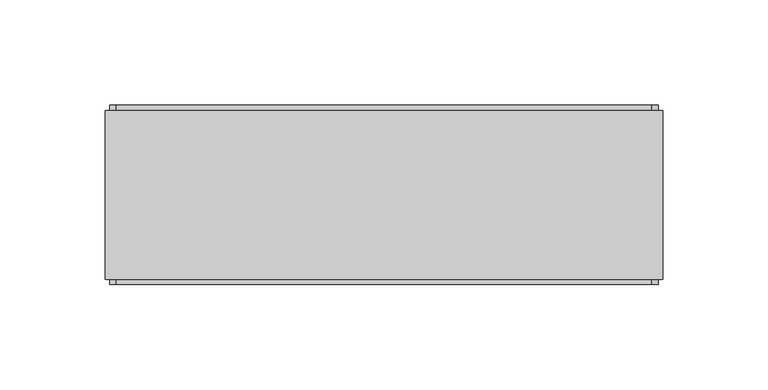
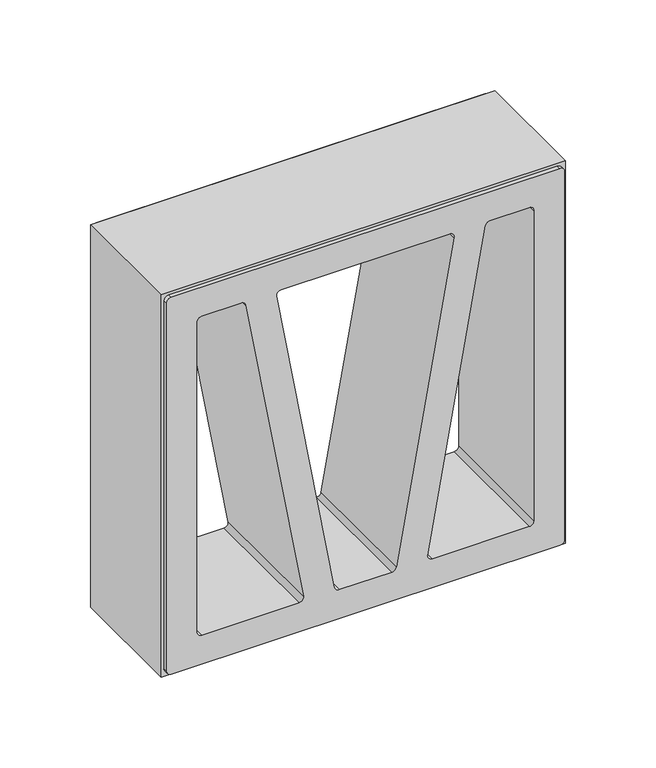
"""IFC4 building model written with IfcOpenShell, lengths in millimetres: proxy geometry, PORTOBELLO - STUDIO CRAFT 3 26X26 (COBOGO) : STUDIO CRAFT 3."""

from ifc_helpers import new_model, si_unit, point, frame, frame_2d, origin, place, context, project, spatial, polyline, circle_curve, trimmed, segment, composite_curve, outline, extrude, source, transform, mapped, element, save


def generic_models_d5a960b2(model_context):
    return source(origin(), model_context, "Body", "SweptSolid", [
        extrude(outline(composite_curve([segment(polyline([(5.0, 130.0), (259.0, 130.0)]), True, "CONTINUOUS"), segment(trimmed(circle_curve(frame_2d((259.0, 127.0)), 3.0), [point((259.0, 130.0))], [point((262.0, 127.0))], False, "CARTESIAN"), True, "CONTINUOUS"), segment(polyline([(262.0, 127.0), (262.0, -127.0)]), True, "CONTINUOUS"), segment(trimmed(circle_curve(frame_2d((259.0, -127.0)), 3.0), [point((262.0, -127.0))], [point((259.0, -130.0))], False, "CARTESIAN"), True, "CONTINUOUS"), segment(polyline([(259.0, -130.0), (5.0, -130.0)]), True, "CONTINUOUS"), segment(trimmed(circle_curve(frame_2d((5.0, -127.0)), 3.0), [point((5.0, -130.0))], [point((2.0, -127.0))], False, "CARTESIAN"), True, "CONTINUOUS"), segment(polyline([(2.0, -127.0), (2.0, 127.0)]), True, "CONTINUOUS"), segment(trimmed(circle_curve(frame_2d((5.0, 127.0)), 3.0), [point((2.0, 127.0))], [point((5.0, 130.0))], False, "CARTESIAN"), True, "CONTINUOUS")], self_intersect=False), holes=[composite_curve([segment(polyline([(242.0, 81.3092346), (242.0, 107.0)]), True, "CONTINUOUS"), segment(trimmed(circle_curve(frame_2d((239.0, 107.0)), 3.0), [point((242.0, 107.0))], [point((239.0, 110.0))], True, "CARTESIAN"), True, "CONTINUOUS"), segment(polyline([(239.0, 110.0), (25.0, 110.0)]), True, "CONTINUOUS"), segment(trimmed(circle_curve(frame_2d((25.0, 107.0)), 3.0), [point((25.0, 110.0))], [point((22.0, 107.0))], True, "CARTESIAN"), True, "CONTINUOUS"), segment(polyline([(22.0, 107.0), (22.0, 43.5752608)]), True, "CONTINUOUS"), segment(trimmed(circle_curve(frame_2d((25.0, 43.5752608)), 3.0), [point((22.0, 43.5752608))], [point((25.5209445, 40.6208375))], True, "CARTESIAN"), True, "CONTINUOUS"), segment(polyline([(25.5209445, 40.6208375), (239.5209445, 78.3548114)]), True, "CONTINUOUS"), segment(trimmed(circle_curve(frame_2d((239.0, 81.3092346)), 3.0), [point((239.5209445, 78.3548114))], [point((242.0, 81.3092346))], True, "CARTESIAN"), True, "CONTINUOUS")], self_intersect=False), composite_curve([segment(polyline([(22.0, -43.5752608), (22.0, -107.0)]), True, "CONTINUOUS"), segment(trimmed(circle_curve(frame_2d((25.0, -107.0)), 3.0), [point((22.0, -107.0))], [point((25.0, -110.0))], True, "CARTESIAN"), True, "CONTINUOUS"), segment(polyline([(25.0, -110.0), (239.0, -110.0)]), True, "CONTINUOUS"), segment(trimmed(circle_curve(frame_2d((239.0, -107.0)), 3.0), [point((239.0, -110.0))], [point((242.0, -107.0))], True, "CARTESIAN"), True, "CONTINUOUS"), segment(polyline([(242.0, -107.0), (242.0, -81.3092346)]), True, "CONTINUOUS"), segment(trimmed(circle_curve(frame_2d((239.0, -81.3092346)), 3.0), [point((242.0, -81.3092346))], [point((239.5209445, -78.3548114))], True, "CARTESIAN"), True, "CONTINUOUS"), segment(polyline([(239.5209445, -78.3548114), (25.5209445, -40.6208375)]), True, "CONTINUOUS"), segment(trimmed(circle_curve(frame_2d((25.0, -43.5752608)), 3.0), [point((25.5209445, -40.6208375))], [point((22.0, -43.5752608))], True, "CARTESIAN"), True, "CONTINUOUS")], self_intersect=False), composite_curve([segment(trimmed(circle_curve(frame_2d((239.0, -54.9081427)), 3.0), [point((238.4790555, -57.862566))], [point((242.0, -54.9081427))], True, "CARTESIAN"), True, "CONTINUOUS"), segment(polyline([(242.0, -54.9081427), (242.0, 54.9081427)]), True, "CONTINUOUS"), segment(trimmed(circle_curve(frame_2d((239.0, 54.9081427)), 3.0), [point((242.0, 54.9081427))], [point((238.4790555, 57.862566))], True, "CARTESIAN"), True, "CONTINUOUS"), segment(polyline([(238.4790555, 57.862566), (24.4790555, 20.1285921)]), True, "CONTINUOUS"), segment(trimmed(circle_curve(frame_2d((25.0, 17.1741689)), 3.0), [point((24.4790555, 20.1285921))], [point((22.0, 17.1741689))], True, "CARTESIAN"), True, "CONTINUOUS"), segment(polyline([(22.0, 17.1741689), (22.0, -17.1741689)]), True, "CONTINUOUS"), segment(trimmed(circle_curve(frame_2d((25.0, -17.1741689)), 3.0), [point((22.0, -17.1741689))], [point((24.4790555, -20.1285921))], True, "CARTESIAN"), True, "CONTINUOUS"), segment(polyline([(24.4790555, -20.1285921), (238.4790555, -57.862566)]), True, "CONTINUOUS")], self_intersect=False)]), frame((0.0, -42.5, 0.0), z_axis=(0.0, 1.0, 0.0), x_axis=(0.0, 0.0, 1.0)), (0.0, 0.0, 1.0), 85.0),
        extrude(outline(polyline([(264.0, -132.0), (0.0, -132.0), (0.0, 132.0), (264.0, 132.0), (264.0, -132.0)]), holes=[composite_curve([segment(trimmed(circle_curve(frame_2d((5.0, -127.0)), 3.0), [point((2.0, -127.0))], [point((5.0, -130.0))], True, "CARTESIAN"), True, "CONTINUOUS"), segment(polyline([(5.0, -130.0), (259.0, -130.0)]), True, "CONTINUOUS"), segment(trimmed(circle_curve(frame_2d((259.0, -127.0)), 3.0), [point((259.0, -130.0))], [point((262.0, -127.0))], True, "CARTESIAN"), True, "CONTINUOUS"), segment(polyline([(262.0, -127.0), (262.0, 127.0)]), True, "CONTINUOUS"), segment(trimmed(circle_curve(frame_2d((259.0, 127.0)), 3.0), [point((262.0, 127.0))], [point((259.0, 130.0))], True, "CARTESIAN"), True, "CONTINUOUS"), segment(polyline([(259.0, 130.0), (5.0, 130.0)]), True, "CONTINUOUS"), segment(trimmed(circle_curve(frame_2d((5.0, 127.0)), 3.0), [point((5.0, 130.0))], [point((2.0, 127.0))], True, "CARTESIAN"), True, "CONTINUOUS"), segment(polyline([(2.0, 127.0), (2.0, -127.0)]), True, "CONTINUOUS")], self_intersect=False)]), frame((0.0, -40.0, 0.0), z_axis=(0.0, 1.0, 0.0), x_axis=(0.0, 0.0, 1.0)), (0.0, 0.0, 1.0), 80.0),
    ])


if __name__ == "__main__":
    model = new_model("IFC4")
    model_context = context("Model", 3, world=origin())
    ifc_project = project(units=[si_unit("LENGTHUNIT", "METRE", prefix="MILLI")], contexts=[model_context])
    site = spatial("IfcSite", under=ifc_project)
    building = spatial("IfcBuilding", under=site)
    placement = place(None, origin())
    generic_models_shape = generic_models_d5a960b2(model_context)
    element("IfcBuildingElementProxy", 1, Name="PORTOBELLO - STUDIO CRAFT 3 26X26 (COBOGO) : STUDIO CRAFT 3", ObjectType="PORTOBELLO - STUDIO CRAFT 3 26X26 (COBOGO) : STUDIO CRAFT 3", at=placement, inside=building, context=model_context, shape_type="MappedRepresentation", body=[
        mapped(generic_models_shape, transform((0.0, 0.0, 0.0), x_axis=(1.0, 0.0, 0.0), y_axis=(0.0, 1.0, 0.0), z_axis=(0.0, 0.0, 1.0))),
    ])
    save(model, "model.ifc")
